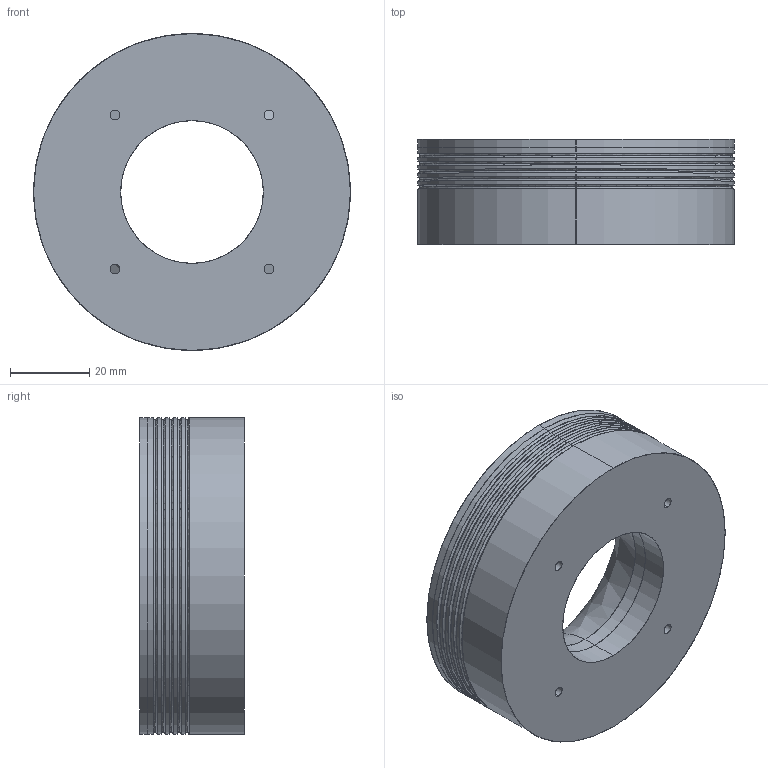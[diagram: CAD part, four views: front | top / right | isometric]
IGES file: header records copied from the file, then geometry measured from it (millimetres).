
Start section: SolidWorks IGES file using analytic representation for surfaces
Global section: file name: D:\SynologyDrive\新款图纸\非标定制\高角度无影光\RIH80\ED\RIH80.IGS,15HSolidWorks; native system: 2021; preprocessor: SolidWorks 2021; author: Administrator; date: 220322.090650; units: millimetre
Bounding box: 80 x 26.5 x 80 mm (x, y, z)
Surface area: 32109.1 mm2 (no closed solid volume)
Topology: 0 solids, 0 shells, 66 faces, 1512 edges, 1512 vertices
Faces by surface type: revolution 34, bspline 32
